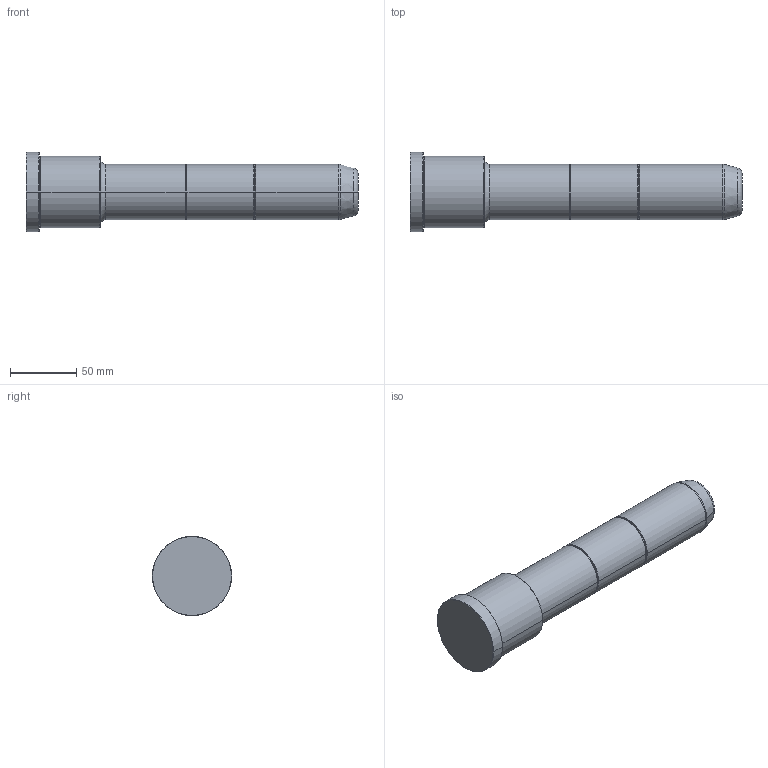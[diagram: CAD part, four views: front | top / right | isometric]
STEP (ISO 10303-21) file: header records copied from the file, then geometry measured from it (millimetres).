
FILE_DESCRIPTION (( 'STEP AP214' ), '1' );
FILE_NAME ('R01_056x42x195.STEP', '2015-03-05T14:08:31', ( 'TGL' ), ( '' ), 'SwSTEP 2.0', 'SolidWorks 2011', '' );
FILE_SCHEMA (( 'AUTOMOTIVE_DESIGN' ));
Length unit declared in the file: millimetre
Products named in the file (1): R01_056x42x195
Bounding box: 251 x 60 x 60 mm (x, y, z)
Volume: 400598.8 mm3; surface area: 40451.4 mm2
Topology: 1 solids, 1 shells, 49 faces, 96 edges, 56 vertices
Faces by surface type: cone 18, cylinder 16, plane 9, torus 6
Entity records: 1426 total; most frequent: DIRECTION 258, CARTESIAN_POINT 202, ORIENTED_EDGE 192, AXIS2_PLACEMENT_3D 112, EDGE_CURVE 96, CIRCLE 62, EDGE_LOOP 56, VERTEX_POINT 56
